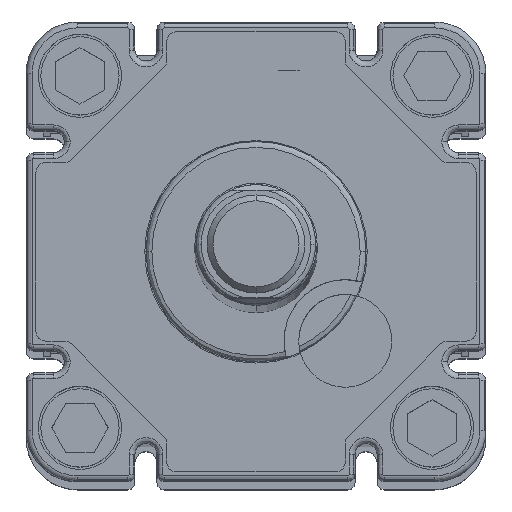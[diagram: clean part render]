
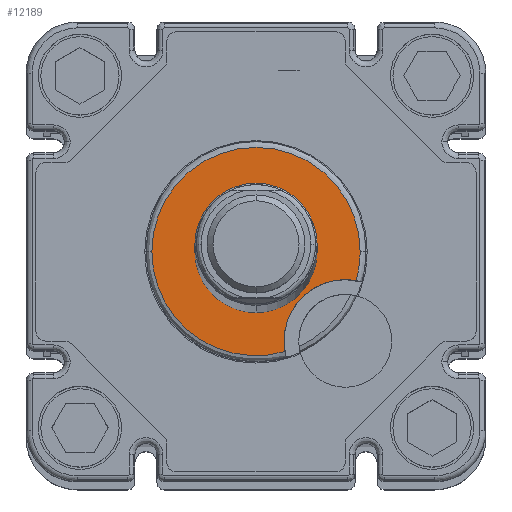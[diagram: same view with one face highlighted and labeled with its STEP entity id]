
A CAD part, top view. The second image highlights one B-rep face of the part: STEP entity #12189.
In plain terms, the highlighted planar face has unit normal (0, 0, 1).
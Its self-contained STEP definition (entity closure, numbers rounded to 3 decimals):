
#4160=CARTESIAN_POINT('',(21.3,0.,976.0));
#4161=VERTEX_POINT('',#4160);
#4169=CARTESIAN_POINT('',(20.453,-5.946,976.0));
#4170=VERTEX_POINT('',#4169);
#4171=CARTESIAN_POINT('',(0.,0.,976.0));
#4172=DIRECTION('',(0.0,0.0,-1.0));
#4173=DIRECTION('',(-1.0,0.0,0.0));
#4174=AXIS2_PLACEMENT_3D('',#4171,#4172,#4173);
#4175=CIRCLE('',#4174,21.3);
#4176=EDGE_CURVE('',#4161,#4170,#4175,.T.);
#4210=CARTESIAN_POINT('',(-21.3,0.,976.0));
#4211=VERTEX_POINT('',#4210);
#4221=CARTESIAN_POINT('',(0.,0.,976.0));
#4222=DIRECTION('',(0.0,0.0,-1.0));
#4223=DIRECTION('',(-1.0,0.0,0.0));
#4224=AXIS2_PLACEMENT_3D('',#4221,#4222,#4223);
#4225=CIRCLE('',#4224,21.3);
#4226=EDGE_CURVE('',#4211,#4161,#4225,.T.);
#5094=CARTESIAN_POINT('',(0.,12.5,976.0));
#5095=VERTEX_POINT('',#5094);
#5111=CARTESIAN_POINT('',(0.,-12.5,976.0));
#5112=VERTEX_POINT('',#5111);
#5119=CARTESIAN_POINT('',(0.,0.,976.0));
#5120=DIRECTION('',(0.0,0.0,-1.0));
#5121=DIRECTION('',(0.0,1.0,0.0));
#5122=AXIS2_PLACEMENT_3D('',#5119,#5120,#5121);
#5123=CIRCLE('',#5122,12.5);
#5124=EDGE_CURVE('',#5095,#5112,#5123,.T.);
#7149=CARTESIAN_POINT('',(5.75,-18.25,976.0));
#7150=VERTEX_POINT('',#7149);
#7159=CARTESIAN_POINT('',(5.946,-20.453,976.0));
#7160=VERTEX_POINT('',#7159);
#7161=CARTESIAN_POINT('',(18.25,-18.25,976.0));
#7162=DIRECTION('',(0.0,0.0,-1.0));
#7163=DIRECTION('',(1.0,0.0,0.0));
#7164=AXIS2_PLACEMENT_3D('',#7161,#7162,#7163);
#7165=CIRCLE('',#7164,12.5);
#7166=EDGE_CURVE('',#7160,#7150,#7165,.T.);
#7517=CARTESIAN_POINT('',(18.25,-18.25,976.0));
#7518=DIRECTION('',(0.0,0.0,-1.0));
#7519=DIRECTION('',(1.0,0.0,0.0));
#7520=AXIS2_PLACEMENT_3D('',#7517,#7518,#7519);
#7521=CIRCLE('',#7520,12.5);
#7522=EDGE_CURVE('',#7150,#4170,#7521,.T.);
#11288=CARTESIAN_POINT('',(0.,0.,976.0));
#11289=DIRECTION('',(0.0,0.0,-1.0));
#11290=DIRECTION('',(0.0,1.0,0.0));
#11291=AXIS2_PLACEMENT_3D('',#11288,#11289,#11290);
#11292=CIRCLE('',#11291,12.5);
#11293=EDGE_CURVE('',#5112,#5095,#11292,.T.);
#12163=CARTESIAN_POINT('',(0.,0.,976.0));
#12164=DIRECTION('',(0.0,0.0,-1.0));
#12165=DIRECTION('',(-1.0,0.0,0.0));
#12166=AXIS2_PLACEMENT_3D('',#12163,#12164,#12165);
#12167=CIRCLE('',#12166,21.3);
#12168=EDGE_CURVE('',#7160,#4211,#12167,.T.);
#12173=CARTESIAN_POINT('',(21.25,-21.25,976.0));
#12174=DIRECTION('',(0.0,0.0,1.0));
#12175=DIRECTION('',(1.0,0.0,0.0));
#12176=AXIS2_PLACEMENT_3D('',#12173,#12174,#12175);
#12177=PLANE('',#12176);
#12178=ORIENTED_EDGE('',*,*,#7166,.T.);
#12179=ORIENTED_EDGE('',*,*,#7522,.T.);
#12180=ORIENTED_EDGE('',*,*,#4176,.F.);
#12181=ORIENTED_EDGE('',*,*,#4226,.F.);
#12182=ORIENTED_EDGE('',*,*,#12168,.F.);
#12183=EDGE_LOOP('',(#12178,#12179,#12180,#12181,#12182));
#12184=FACE_OUTER_BOUND('',#12183,.T.);
#12185=ORIENTED_EDGE('',*,*,#5124,.T.);
#12186=ORIENTED_EDGE('',*,*,#11293,.T.);
#12187=EDGE_LOOP('',(#12185,#12186));
#12188=FACE_BOUND('',#12187,.T.);
#12189=ADVANCED_FACE('',(#12184,#12188),#12177,.T.);
